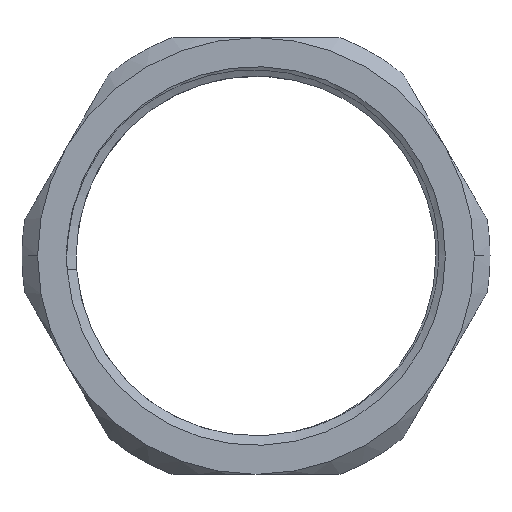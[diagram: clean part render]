
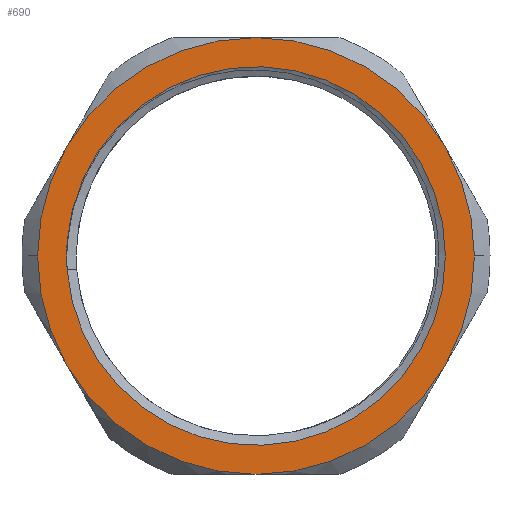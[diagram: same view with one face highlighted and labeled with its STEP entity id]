
A CAD part, left-side view. The second image highlights one B-rep face of the part: STEP entity #690.
In plain terms, the highlighted planar face has unit normal (-1, 0, 0).
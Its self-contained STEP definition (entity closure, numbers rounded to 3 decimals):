
#10=CARTESIAN_POINT('',(0.,-6.5,0.));
#20=DIRECTION('',(-1.,0.,0.));
#30=DIRECTION('',(0.,-1.,0.));
#40=AXIS2_PLACEMENT_3D('',#10,#20,#30);
#50=PLANE('',#40);
#60=CARTESIAN_POINT('',(0.,0.,0.));
#70=DIRECTION('',(-1.,0.,0.));
#80=DIRECTION('',(0.,1.,0.));
#90=AXIS2_PLACEMENT_3D('',#60,#70,#80);
#100=CIRCLE('',#90,6.069);
#110=CARTESIAN_POINT('',(0.,6.053,
-0.44));
#120=VERTEX_POINT('729754-1634606966-14cb19c6d37b-0 40710',#110);
#130=CARTESIAN_POINT('',(0.,6.053,
0.44));
#140=VERTEX_POINT('729754-1634606966-14cb19c6d37b-0 40701',#130);
#150=EDGE_CURVE('729754-1634606966-14cb19c6d37b-0 40711',#120,#140,#100,
.T.);
#160=ORIENTED_EDGE('',*,*,#150,.F.);
#170=CARTESIAN_POINT('',(0.,0.,0.));
#180=DIRECTION('',(-1.,0.,0.));
#190=DIRECTION('',(0.,1.,0.));
#200=AXIS2_PLACEMENT_3D('',#170,#180,#190);
#210=CIRCLE('',#200,6.069);
#220=CARTESIAN_POINT('',(0.,6.069,0.));
#230=VERTEX_POINT('',#220);
#240=EDGE_CURVE('729754-1634606966-14cb19c6d37b-0 40699',#140,#230,#210,
.T.);
#250=ORIENTED_EDGE('',*,*,#240,.F.);
#260=EDGE_CURVE('729754-1634606966-14cb19c6d37b-0 40699',#230,#120,#210,
.T.);
#270=ORIENTED_EDGE('',*,*,#260,.F.);
#280=EDGE_LOOP('',(#270,#250,#160));
#290=FACE_BOUND('',#280,.T.);
#300=CARTESIAN_POINT('',(0.,0.,
0.));
#310=DIRECTION('',(-1.,0.,-0.));
#320=DIRECTION('',(0.,-1.,0.));
#330=AXIS2_PLACEMENT_3D('',#300,#310,#320);
#340=CIRCLE('',#330,7.);
#350=CARTESIAN_POINT('',(0.,-6.062,
-3.5));
#360=VERTEX_POINT('729754-1634606966-14cb19c6d37b-0 40834',#350);
#370=CARTESIAN_POINT('',(0.,-7.,0.))
;
#380=VERTEX_POINT('',#370);
#390=EDGE_CURVE('729754-1634606966-14cb19c6d37b-0 41109',#360,#380,#340,
.T.);
#400=ORIENTED_EDGE('',*,*,#390,.T.);
#410=CARTESIAN_POINT('',(0.,0.,
-7.));
#420=VERTEX_POINT('729754-1634606966-14cb19c6d37b-0 40857',#410);
#430=EDGE_CURVE('729754-1634606966-14cb19c6d37b-0 41107',#420,#360,#340,
.T.);
#440=ORIENTED_EDGE('',*,*,#430,.T.);
#450=CARTESIAN_POINT('',(0.,6.062,
-3.5));
#460=VERTEX_POINT('729754-1634606966-14cb19c6d37b-0 40894',#450);
#470=EDGE_CURVE('729754-1634606966-14cb19c6d37b-0 41105',#460,#420,#340,
.T.);
#480=ORIENTED_EDGE('',*,*,#470,.T.);
#490=CARTESIAN_POINT('',(0.,7.,0.));
#500=VERTEX_POINT('',#490);
#510=EDGE_CURVE('729754-1634606966-14cb19c6d37b-0 41103',#500,#460,#340,
.T.);
#520=ORIENTED_EDGE('',*,*,#510,.T.);
#530=CARTESIAN_POINT('',(0.,6.062,3.5));
#540=VERTEX_POINT('729754-1634606966-14cb19c6d37b-0 40915',#530);
#550=EDGE_CURVE('729754-1634606966-14cb19c6d37b-0 41103',#540,#500,#340,
.T.);
#560=ORIENTED_EDGE('',*,*,#550,.T.);
#570=CARTESIAN_POINT('',(0.,0.,7.))
;
#580=VERTEX_POINT('729754-1634606966-14cb19c6d37b-0 40951',#570);
#590=EDGE_CURVE('729754-1634606966-14cb19c6d37b-0 41101',#580,#540,#340,
.T.);
#600=ORIENTED_EDGE('',*,*,#590,.T.);
#610=CARTESIAN_POINT('',(0.,-6.062,
3.5));
#620=VERTEX_POINT('729754-1634606966-14cb19c6d37b-0 40972',#610);
#630=EDGE_CURVE('729754-1634606966-14cb19c6d37b-0 41097',#620,#580,#340,
.T.);
#640=ORIENTED_EDGE('',*,*,#630,.T.);
#650=EDGE_CURVE('729754-1634606966-14cb19c6d37b-0 41109',#380,#620,#340,
.T.);
#660=ORIENTED_EDGE('',*,*,#650,.T.);
#670=EDGE_LOOP('',(#660,#640,#600,#560,#520,#480,#440,#400));
#680=FACE_OUTER_BOUND('',#670,.T.);
#690=ADVANCED_FACE('729754-1634606966-14cb19c6d37b-0 40694',(#290,#680),
#50,.T.);
